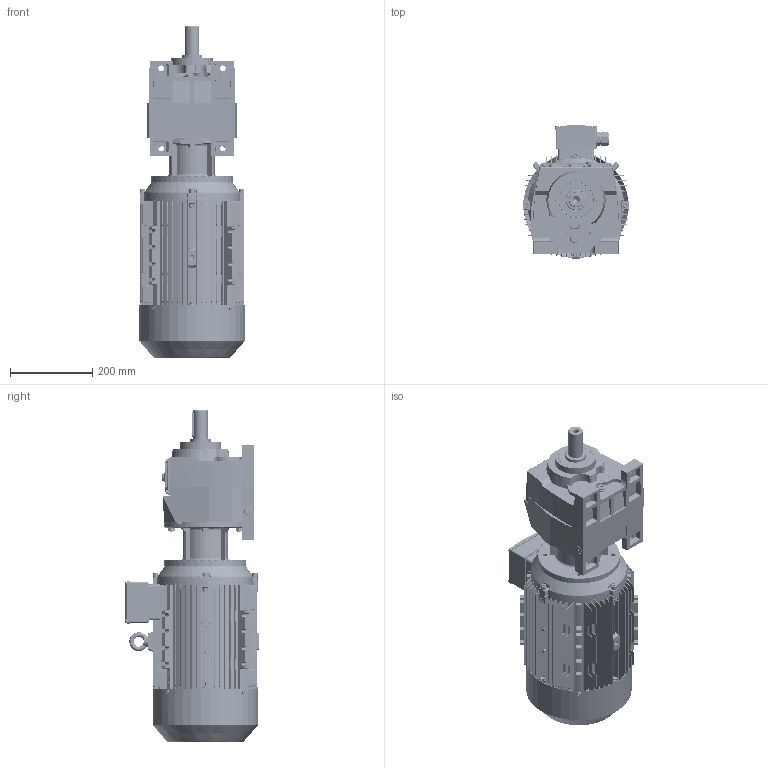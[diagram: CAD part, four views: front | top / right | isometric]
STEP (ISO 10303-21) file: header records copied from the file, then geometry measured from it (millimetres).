
FILE_DESCRIPTION (( 'STEP AP203' ), '1' );
FILE_NAME ('MV_283_0_MX132M.STEP', '2018-11-29T09:56:49', ( '' ), ( '' ), 'SwSTEP 2.0', 'SolidWorks 2012', '' );
FILE_SCHEMA (( 'CONFIG_CONTROL_DESIGN' ));
Products named in the file (23): MX3-132M_B14; DMX-IE3 Flange; MV_283_0_MX132M; hexagon nuts grade c gb_GB_FASTENER_NUT_SNC1 M8-N; hexagon flange head tapping screws gb_GB_SQUARE_AND_HEXAGON_TYPE137 ST4.8X9.5 C-N; hexagon socket head cap screws gb_GB_FASTENER_SCREWS_HSHCS M8X40-N; cross recessed pan head screws gb_GB_CROSS_SCREWS_TYPE1 M5X12-12  H type-N; eyebolts gb_GB_FASTENER_SCREWS_FRS M10-N; DMX-IE3 132 oil seal; spring lock washers--normal type gb_GB_FASTENER_WASHER_SW 8; plain parallel keys_GB_CONNECTING_PIECE_KEYS_CSK 10X70; DMX-IE3 132 terminal base; DMX-IE3 132 terimianl cover; DMX-IE3 132 shaft cover; DMX-IE3 132shaft; deep groove ball bearings gb_Rolling bearings 6308 GB 276-94; DMX-IE3 132 fan; DMX-IE3 132 fan cover; 33132B14_Varsayìlan; DMX-IE3 132 casing; DMX-IE3 132 B3 Shield; ML106A_Varsayìlan; M283_Varsayìlan
Assembly tree (50 placements, depth 3):
  MV_283_0_MX132M
    M283_Varsayìlan
    33132B14_Varsayìlan
    ML106A_Varsayìlan
    MX3-132M_B14
      DMX-IE3 132 casing
      DMX-IE3 132 B3 Shield
      DMX-IE3 132shaft
      deep groove ball bearings gb_Rolling bearings 6308 GB 276-94  x2
      DMX-IE3 132 fan
      DMX-IE3 132 fan cover
      DMX-IE3 132 terminal base
      DMX-IE3 132 terimianl cover
      DMX-IE3 132 shaft cover  x2
      DMX-IE3 132 oil seal
      plain parallel keys_GB_CONNECTING_PIECE_KEYS_CSK 10X70
      eyebolts gb_GB_FASTENER_SCREWS_FRS M10-N
      spring lock washers--normal type gb_GB_FASTENER_WASHER_SW 8  x8
      hexagon socket head cap screws gb_GB_FASTENER_SCREWS_HSHCS M8X40-N  x8
      hexagon nuts grade c gb_GB_FASTENER_NUT_SNC1 M8-N  x7
      hexagon flange head tapping screws gb_GB_SQUARE_AND_HEXAGON_TYPE137 ST4.8X9.5 C-N  x4
      cross recessed pan head screws gb_GB_CROSS_SCREWS_TYPE1 M5X12-12  H type-N  x4
      DMX-IE3 Flange
Bounding box: 256.22 x 325 x 808.57 mm (x, y, z)
Volume: 12188767.5 mm3; surface area: 2296513.2 mm2
Topology: 50 solids, 52 shells, 8230 faces, 21166 edges, 12929 vertices
Faces by surface type: plane 2746, bspline 2275, cylinder 2091, cone 758, torus 242, sphere 118
Entity records: 334379 total; most frequent: CARTESIAN_POINT 166524, ORIENTED_EDGE 38368, DIRECTION 28581, EDGE_CURVE 19184, VERTEX_POINT 11801, AXIS2_PLACEMENT_3D 10370, EDGE_LOOP 8261, LINE 7841
